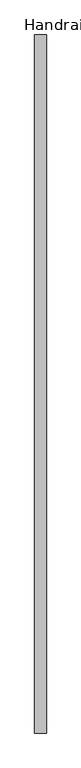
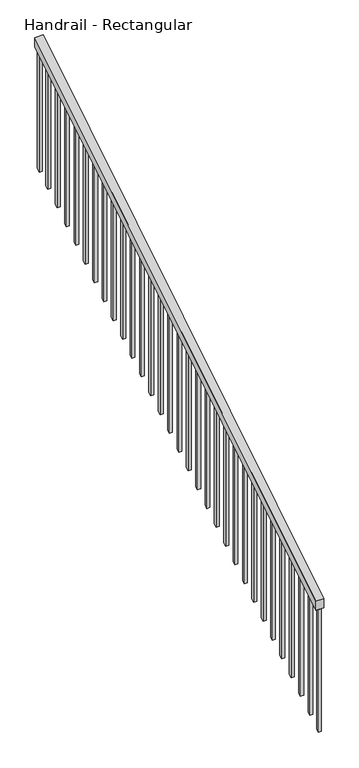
"""IFC4 building model written with IfcOpenShell, lengths in millimetres: railing geometry, Handrail - Rectangular."""

from ifc_helpers import new_model, si_unit, frame, origin, place, context, project, spatial, polyline, outline, extrude, source, transform, mapped, element, save


def handrail_rectangular_de2b99ac(model_context):
    return source(origin(), model_context, "Body", "SweptSolid", [
        extrude(outline(polyline([(26551.8305304, 3597.8618877), (26551.8305304, 3657.6), (29599.8305304, 5543.55), (29599.8305304, 5483.8118877), (26551.8305304, 3597.8618877)])), frame((-6949.6924856, 0.0, 0.0), z_axis=(1.0, 0.0, 0.0), x_axis=(0.0, 1.0, 0.0)), (0.0, 0.0, 1.0), 50.8),
        extrude(outline(polyline([(29488.7055304, 5415.053294), (29507.7555304, 5426.8404815), (29507.7555304, 4614.0393145), (29488.7055304, 4602.252127), (29488.7055304, 5415.053294)])), frame((-6933.8174856, 0.0, 0.0), z_axis=(1.0, 0.0, 0.0), x_axis=(0.0, 1.0, 0.0)), (0.0, 0.0, 1.0), 19.05),
        extrude(outline(polyline([(29387.1055304, 5352.188294), (29406.1555304, 5363.9754815), (29406.1555304, 4551.1743145), (29387.1055304, 4539.387127), (29387.1055304, 5352.188294)])), frame((-6933.8174856, 0.0, 0.0), z_axis=(1.0, 0.0, 0.0), x_axis=(0.0, 1.0, 0.0)), (0.0, 0.0, 1.0), 19.05),
        extrude(outline(polyline([(29285.5055304, 5289.323294), (29304.5555304, 5301.1104815), (29304.5555304, 4488.3093145), (29285.5055304, 4476.522127), (29285.5055304, 5289.323294)])), frame((-6933.8174856, 0.0, 0.0), z_axis=(1.0, 0.0, 0.0), x_axis=(0.0, 1.0, 0.0)), (0.0, 0.0, 1.0), 19.05),
        extrude(outline(polyline([(29183.9055304, 5226.458294), (29202.9555304, 5238.2454815), (29202.9555304, 4425.4443145), (29183.9055304, 4413.657127), (29183.9055304, 5226.458294)])), frame((-6933.8174856, 0.0, 0.0), z_axis=(1.0, 0.0, 0.0), x_axis=(0.0, 1.0, 0.0)), (0.0, 0.0, 1.0), 19.05),
        extrude(outline(polyline([(29082.3055304, 5163.593294), (29101.3555304, 5175.3804815), (29101.3555304, 4362.5793145), (29082.3055304, 4350.792127), (29082.3055304, 5163.593294)])), frame((-6933.8174856, 0.0, 0.0), z_axis=(1.0, 0.0, 0.0), x_axis=(0.0, 1.0, 0.0)), (0.0, 0.0, 1.0), 19.05),
        extrude(outline(polyline([(28980.7055304, 5100.728294), (28999.7555304, 5112.5154815), (28999.7555304, 4299.7143145), (28980.7055304, 4287.927127), (28980.7055304, 5100.728294)])), frame((-6933.8174856, 0.0, 0.0), z_axis=(1.0, 0.0, 0.0), x_axis=(0.0, 1.0, 0.0)), (0.0, 0.0, 1.0), 19.05),
        extrude(outline(polyline([(28879.1055304, 5037.863294), (28898.1555304, 5049.6504815), (28898.1555304, 4236.8493145), (28879.1055304, 4225.062127), (28879.1055304, 5037.863294)])), frame((-6933.8174856, 0.0, 0.0), z_axis=(1.0, 0.0, 0.0), x_axis=(0.0, 1.0, 0.0)), (0.0, 0.0, 1.0), 19.05),
        extrude(outline(polyline([(28777.5055304, 4974.998294), (28796.5555304, 4986.7854815), (28796.5555304, 4173.9843145), (28777.5055304, 4162.197127), (28777.5055304, 4974.998294)])), frame((-6933.8174856, 0.0, 0.0), z_axis=(1.0, 0.0, 0.0), x_axis=(0.0, 1.0, 0.0)), (0.0, 0.0, 1.0), 19.05),
        extrude(outline(polyline([(28675.9055304, 4912.133294), (28694.9555304, 4923.9204815), (28694.9555304, 4111.1193145), (28675.9055304, 4099.332127), (28675.9055304, 4912.133294)])), frame((-6933.8174856, 0.0, 0.0), z_axis=(1.0, 0.0, 0.0), x_axis=(0.0, 1.0, 0.0)), (0.0, 0.0, 1.0), 19.05),
        extrude(outline(polyline([(28574.3055304, 4849.268294), (28593.3555304, 4861.0554815), (28593.3555304, 4048.2543145), (28574.3055304, 4036.467127), (28574.3055304, 4849.268294)])), frame((-6933.8174856, 0.0, 0.0), z_axis=(1.0, 0.0, 0.0), x_axis=(0.0, 1.0, 0.0)), (0.0, 0.0, 1.0), 19.05),
        extrude(outline(polyline([(28472.7055304, 4786.403294), (28491.7555304, 4798.1904815), (28491.7555304, 3985.3893145), (28472.7055304, 3973.602127), (28472.7055304, 4786.403294)])), frame((-6933.8174856, 0.0, 0.0), z_axis=(1.0, 0.0, 0.0), x_axis=(0.0, 1.0, 0.0)), (0.0, 0.0, 1.0), 19.05),
        extrude(outline(polyline([(28371.1055304, 4723.538294), (28390.1555304, 4735.3254815), (28390.1555304, 3922.5243145), (28371.1055304, 3910.737127), (28371.1055304, 4723.538294)])), frame((-6933.8174856, 0.0, 0.0), z_axis=(1.0, 0.0, 0.0), x_axis=(0.0, 1.0, 0.0)), (0.0, 0.0, 1.0), 19.05),
        extrude(outline(polyline([(28269.5055304, 4660.673294), (28288.5555304, 4672.4604815), (28288.5555304, 3859.6593145), (28269.5055304, 3847.872127), (28269.5055304, 4660.673294)])), frame((-6933.8174856, 0.0, 0.0), z_axis=(1.0, 0.0, 0.0), x_axis=(0.0, 1.0, 0.0)), (0.0, 0.0, 1.0), 19.05),
        extrude(outline(polyline([(28167.9055304, 4597.808294), (28186.9555304, 4609.5954815), (28186.9555304, 3796.7943145), (28167.9055304, 3785.007127), (28167.9055304, 4597.808294)])), frame((-6933.8174856, 0.0, 0.0), z_axis=(1.0, 0.0, 0.0), x_axis=(0.0, 1.0, 0.0)), (0.0, 0.0, 1.0), 19.05),
        extrude(outline(polyline([(28066.3055304, 4534.943294), (28085.3555304, 4546.7304815), (28085.3555304, 3733.9293145), (28066.3055304, 3722.142127), (28066.3055304, 4534.943294)])), frame((-6933.8174856, 0.0, 0.0), z_axis=(1.0, 0.0, 0.0), x_axis=(0.0, 1.0, 0.0)), (0.0, 0.0, 1.0), 19.05),
        extrude(outline(polyline([(27964.7055304, 4472.078294), (27983.7555304, 4483.8654815), (27983.7555304, 3671.0643145), (27964.7055304, 3659.277127), (27964.7055304, 4472.078294)])), frame((-6933.8174856, 0.0, 0.0), z_axis=(1.0, 0.0, 0.0), x_axis=(0.0, 1.0, 0.0)), (0.0, 0.0, 1.0), 19.05),
        extrude(outline(polyline([(27863.1055304, 4409.213294), (27882.1555304, 4421.0004815), (27882.1555304, 3608.1993145), (27863.1055304, 3596.412127), (27863.1055304, 4409.213294)])), frame((-6933.8174856, 0.0, 0.0), z_axis=(1.0, 0.0, 0.0), x_axis=(0.0, 1.0, 0.0)), (0.0, 0.0, 1.0), 19.05),
        extrude(outline(polyline([(27761.5055304, 4346.348294), (27780.5555304, 4358.1354815), (27780.5555304, 3545.3343145), (27761.5055304, 3533.547127), (27761.5055304, 4346.348294)])), frame((-6933.8174856, 0.0, 0.0), z_axis=(1.0, 0.0, 0.0), x_axis=(0.0, 1.0, 0.0)), (0.0, 0.0, 1.0), 19.05),
        extrude(outline(polyline([(27659.9055304, 4283.483294), (27678.9555304, 4295.2704815), (27678.9555304, 3482.4693145), (27659.9055304, 3470.682127), (27659.9055304, 4283.483294)])), frame((-6933.8174856, 0.0, 0.0), z_axis=(1.0, 0.0, 0.0), x_axis=(0.0, 1.0, 0.0)), (0.0, 0.0, 1.0), 19.05),
        extrude(outline(polyline([(27558.3055304, 4220.618294), (27577.3555304, 4232.4054815), (27577.3555304, 3419.6043145), (27558.3055304, 3407.817127), (27558.3055304, 4220.618294)])), frame((-6933.8174856, 0.0, 0.0), z_axis=(1.0, 0.0, 0.0), x_axis=(0.0, 1.0, 0.0)), (0.0, 0.0, 1.0), 19.05),
        extrude(outline(polyline([(27456.7055304, 4157.753294), (27475.7555304, 4169.5404815), (27475.7555304, 3356.7393145), (27456.7055304, 3344.952127), (27456.7055304, 4157.753294)])), frame((-6933.8174856, 0.0, 0.0), z_axis=(1.0, 0.0, 0.0), x_axis=(0.0, 1.0, 0.0)), (0.0, 0.0, 1.0), 19.05),
        extrude(outline(polyline([(27355.1055304, 4094.888294), (27374.1555304, 4106.6754815), (27374.1555304, 3293.8743145), (27355.1055304, 3282.087127), (27355.1055304, 4094.888294)])), frame((-6933.8174856, 0.0, 0.0), z_axis=(1.0, 0.0, 0.0), x_axis=(0.0, 1.0, 0.0)), (0.0, 0.0, 1.0), 19.05),
        extrude(outline(polyline([(27253.5055304, 4032.023294), (27272.5555304, 4043.8104815), (27272.5555304, 3231.0093145), (27253.5055304, 3219.222127), (27253.5055304, 4032.023294)])), frame((-6933.8174856, 0.0, 0.0), z_axis=(1.0, 0.0, 0.0), x_axis=(0.0, 1.0, 0.0)), (0.0, 0.0, 1.0), 19.05),
        extrude(outline(polyline([(27151.9055304, 3969.158294), (27170.9555304, 3980.9454815), (27170.9555304, 3168.1443145), (27151.9055304, 3156.357127), (27151.9055304, 3969.158294)])), frame((-6933.8174856, 0.0, 0.0), z_axis=(1.0, 0.0, 0.0), x_axis=(0.0, 1.0, 0.0)), (0.0, 0.0, 1.0), 19.05),
        extrude(outline(polyline([(27050.3055304, 3906.293294), (27069.3555304, 3918.0804815), (27069.3555304, 3105.2793145), (27050.3055304, 3093.492127), (27050.3055304, 3906.293294)])), frame((-6933.8174856, 0.0, 0.0), z_axis=(1.0, 0.0, 0.0), x_axis=(0.0, 1.0, 0.0)), (0.0, 0.0, 1.0), 19.05),
        extrude(outline(polyline([(26948.7055304, 3843.428294), (26967.7555304, 3855.2154815), (26967.7555304, 3042.4143145), (26948.7055304, 3030.627127), (26948.7055304, 3843.428294)])), frame((-6933.8174856, 0.0, 0.0), z_axis=(1.0, 0.0, 0.0), x_axis=(0.0, 1.0, 0.0)), (0.0, 0.0, 1.0), 19.05),
        extrude(outline(polyline([(26847.1055304, 3780.563294), (26866.1555304, 3792.3504815), (26866.1555304, 2979.5493145), (26847.1055304, 2967.762127), (26847.1055304, 3780.563294)])), frame((-6933.8174856, 0.0, 0.0), z_axis=(1.0, 0.0, 0.0), x_axis=(0.0, 1.0, 0.0)), (0.0, 0.0, 1.0), 19.05),
        extrude(outline(polyline([(26745.5055304, 3717.698294), (26764.5555304, 3729.4854815), (26764.5555304, 2916.6843145), (26745.5055304, 2904.897127), (26745.5055304, 3717.698294)])), frame((-6933.8174856, 0.0, 0.0), z_axis=(1.0, 0.0, 0.0), x_axis=(0.0, 1.0, 0.0)), (0.0, 0.0, 1.0), 19.05),
        extrude(outline(polyline([(26643.9055304, 3654.833294), (26662.9555304, 3666.6204815), (26662.9555304, 2853.8193145), (26643.9055304, 2842.032127), (26643.9055304, 3654.833294)])), frame((-6933.8174856, 0.0, 0.0), z_axis=(1.0, 0.0, 0.0), x_axis=(0.0, 1.0, 0.0)), (0.0, 0.0, 1.0), 19.05),
        extrude(outline(polyline([(29580.7805304, 5472.0247002), (29599.8305304, 5483.8118877), (29599.8305304, 4671.0107207), (29580.7805304, 4659.2235332), (29580.7805304, 5472.0247002)])), frame((-6933.8174856, 0.0, 0.0), z_axis=(1.0, 0.0, 0.0), x_axis=(0.0, 1.0, 0.0)), (0.0, 0.0, 1.0), 19.05),
        extrude(outline(polyline([(26551.8305304, 3597.8618877), (26570.8805304, 3609.6490752), (26570.8805304, 2796.8479082), (26551.8305304, 2785.0607207), (26551.8305304, 3597.8618877)])), frame((-6933.8174856, 0.0, 0.0), z_axis=(1.0, 0.0, 0.0), x_axis=(0.0, 1.0, 0.0)), (0.0, 0.0, 1.0), 19.05),
    ])


if __name__ == "__main__":
    model = new_model("IFC4")
    model_context = context("Model", 3, world=origin())
    ifc_project = project(units=[si_unit("LENGTHUNIT", "METRE", prefix="MILLI")], contexts=[model_context])
    site = spatial("IfcSite", under=ifc_project)
    building = spatial("IfcBuilding", under=site)
    placement = place(None, origin())
    handrail_rectangular_shape = handrail_rectangular_de2b99ac(model_context)
    element("IfcRailing", 1, ObjectType="Handrail - Rectangular", at=placement, inside=building, context=model_context, shape_type="MappedRepresentation", body=[
        mapped(handrail_rectangular_shape, transform((0.0, 0.0, 0.0), x_axis=(1.0, 0.0, 0.0), y_axis=(0.0, 1.0, 0.0), z_axis=(0.0, 0.0, 1.0))),
    ])
    save(model, "model.ifc")
